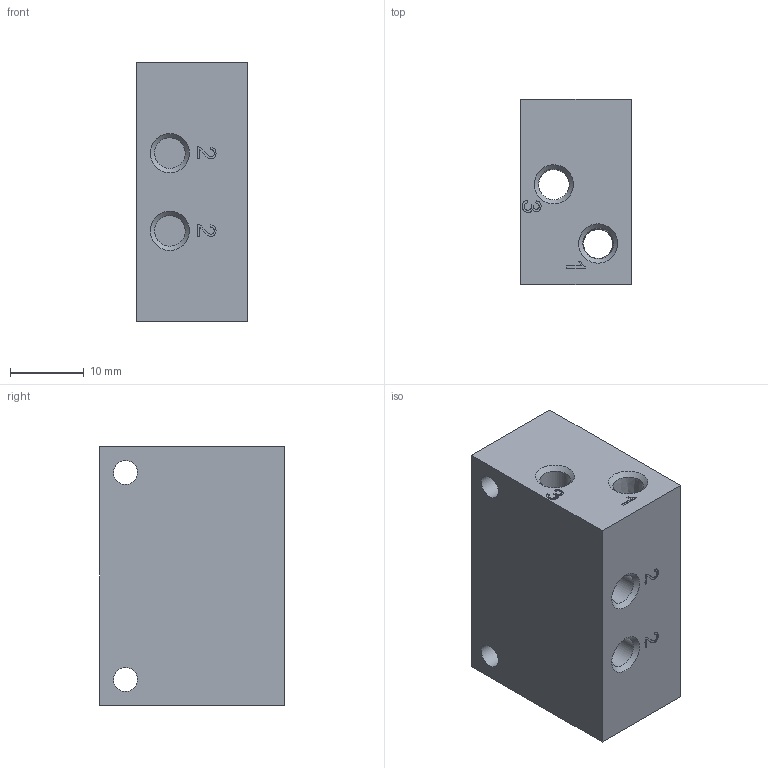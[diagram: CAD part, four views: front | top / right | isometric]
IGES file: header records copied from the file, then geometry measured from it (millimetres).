
Global section: file name: P395_02; native system: Autodesk Inventor 2014; preprocessor: unknown; date: 20160908.083118; units: millimetre
Bounding box: 15 x 25 x 35 mm (x, y, z)
Volume: 11574.8 mm3; surface area: 4941.4 mm2
Topology: 1 solids, 1 shells, 116 faces, 328 edges, 224 vertices
Faces by surface type: bspline 116
